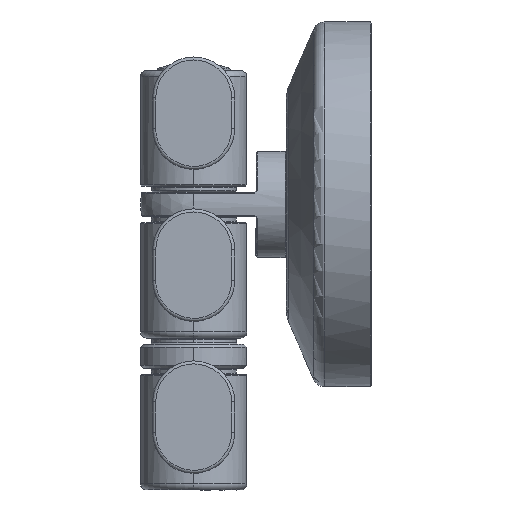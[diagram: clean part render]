
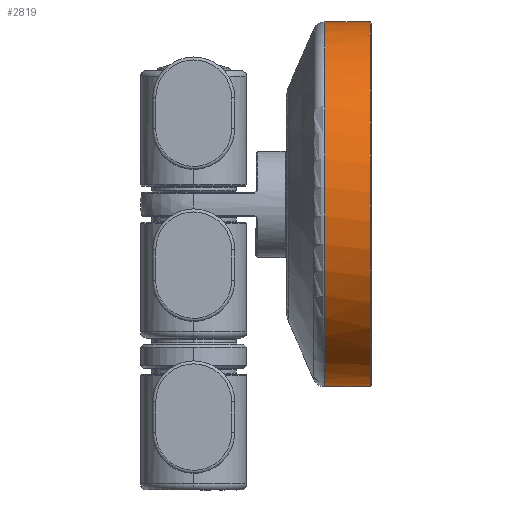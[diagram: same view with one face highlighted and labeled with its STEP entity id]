
A CAD part, left-side view. The second image highlights one B-rep face of the part: STEP entity #2819.
In plain terms, the highlighted cylindrical face has radius 30 mm (diameter 60 mm), a partial arc.
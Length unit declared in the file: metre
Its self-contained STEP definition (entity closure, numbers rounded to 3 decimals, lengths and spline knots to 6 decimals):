
#2480=VERTEX_POINT('',#2481);
#2481=CARTESIAN_POINT('',(0.0,-0.0138,-0.03));
#2488=VERTEX_POINT('',#2489);
#2489=CARTESIAN_POINT('',(0.0,-0.0138,0.03));
#2703=VERTEX_POINT('',#2704);
#2704=CARTESIAN_POINT('',(0.0,-0.006311,-0.03));
#2710=CARTESIAN_POINT('',(0.0,-0.006311,0.03));
#2712=EDGE_CURVE('',#2713,#2703,#2715,.T.);
#2713=VERTEX_POINT('',#2714);
#2714=CARTESIAN_POINT('',(0.0,-0.006311,0.03));
#2715=(B_SPLINE_CURVE(3,(#2710,#2716,#2717,#2718),.UNSPECIFIED.,.F.,.U.)B_SPLINE_CURVE_WITH_KNOTS(
  (4,4),(0.0,1.0),.UNSPECIFIED.)BOUNDED_CURVE()CURVE()GEOMETRIC_REPRESENTATION_ITEM(
  )RATIONAL_B_SPLINE_CURVE((1.0,0.333,0.333,1.0)
  )REPRESENTATION_ITEM(''));
#2716=CARTESIAN_POINT('',(-0.06,-0.006311,0.03));
#2717=CARTESIAN_POINT('',(-0.06,-0.006311,-0.03));
#2718=CARTESIAN_POINT('',(0.0,-0.006311,-0.03));
#2749=CYLINDRICAL_SURFACE('',#2750,0.03);
#2750=AXIS2_PLACEMENT_3D('',#2751,#2752,#2753);
#2751=CARTESIAN_POINT('',(0.0,0.0,0.0));
#2752=DIRECTION('',(0.0,1.0,0.0));
#2753=DIRECTION('',(0.0,0.0,1.0));
#2758=EDGE_CURVE('',#2480,#2703,#2759,.T.);
#2759=LINE('',#2760,#2761);
#2760=CARTESIAN_POINT('',(0.0,0.0,-0.03));
#2761=VECTOR('',#2762,1.0);
#2762=DIRECTION('',(0.0,1.0,0.0));
#2771=EDGE_CURVE('',#2488,#2713,#2772,.T.);
#2772=LINE('',#2773,#2774);
#2773=CARTESIAN_POINT('',(0.0,-0.005,0.03));
#2774=VECTOR('',#2775,1.0);
#2775=DIRECTION('',(0.0,1.0,0.0));
#2817=FACE_OUTER_BOUND('',#2820,.T.);
#2819=ADVANCED_FACE('',(#2817),#2749,.T.);
#2820=EDGE_LOOP('',(#2821,#2822,#2830,#2831));
#2821=ORIENTED_EDGE('',*,*,#2758,.F.);
#2822=ORIENTED_EDGE('',*,*,#2824,.T.);
#2823=CARTESIAN_POINT('',(0.0,-0.0138,-0.03));
#2824=EDGE_CURVE('',#2480,#2488,#2825,.T.);
#2825=(B_SPLINE_CURVE(3,(#2823,#2826,#2827,#2828),.UNSPECIFIED.,.F.,.U.)B_SPLINE_CURVE_WITH_KNOTS(
  (4,4),(0.0,1.0),.UNSPECIFIED.)BOUNDED_CURVE()CURVE()GEOMETRIC_REPRESENTATION_ITEM(
  )RATIONAL_B_SPLINE_CURVE((1.0,0.333,0.333,1.0)
  )REPRESENTATION_ITEM(''));
#2826=CARTESIAN_POINT('',(-0.06,-0.0138,-0.03));
#2827=CARTESIAN_POINT('',(-0.06,-0.0138,0.03));
#2828=CARTESIAN_POINT('',(0.0,-0.0138,0.03));
#2830=ORIENTED_EDGE('',*,*,#2771,.T.);
#2831=ORIENTED_EDGE('',*,*,#2712,.T.);
